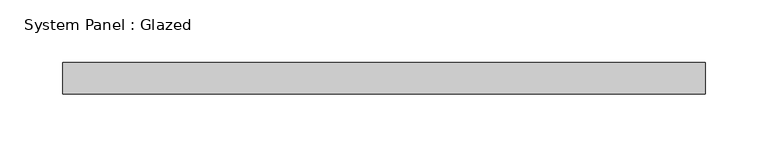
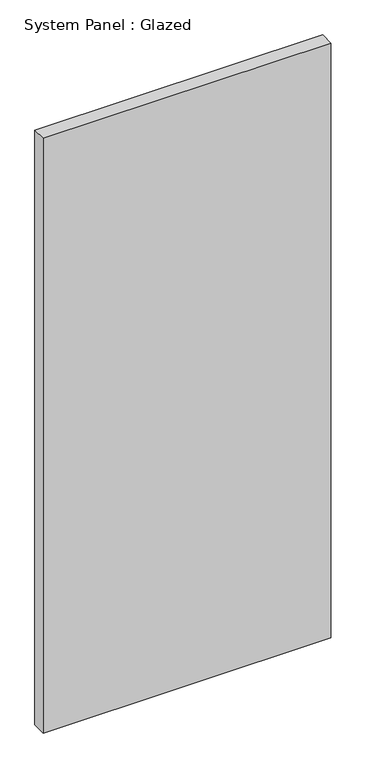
"""IFC4 building model written with IfcOpenShell, lengths in millimetres: plate geometry, System Panel : Glazed."""

from ifc_helpers import new_model, si_unit, origin, origin_with_axes, place, context, project, spatial, polyline, outline, extrude, source, transform, mapped, element, save


def system_panel_glazed_d796fc41(model_context):
    return source(origin(), model_context, "Body", "SweptSolid", [
        extrude(outline(polyline([(257.175, 19.05), (-257.175, 19.05), (-257.175, 44.45), (257.175, 44.45), (257.175, 19.05)])), origin_with_axes(), (0.0, 0.0, 1.0), 1123.95),
    ])


if __name__ == "__main__":
    model = new_model("IFC4")
    model_context = context("Model", 3, world=origin())
    ifc_project = project(units=[si_unit("LENGTHUNIT", "METRE", prefix="MILLI")], contexts=[model_context])
    site = spatial("IfcSite", under=ifc_project)
    building = spatial("IfcBuilding", under=site)
    placement = place(None, origin())
    system_panel_glazed_shape = system_panel_glazed_d796fc41(model_context)
    element("IfcPlate", 1, ObjectType="System Panel : Glazed", at=placement, inside=building, context=model_context, shape_type="MappedRepresentation", body=[
        mapped(system_panel_glazed_shape, transform((0.0, 0.0, 0.0), x_axis=(1.0, 0.0, 0.0), y_axis=(0.0, 1.0, 0.0), z_axis=(0.0, 0.0, 1.0))),
    ])
    save(model, "model.ifc")
